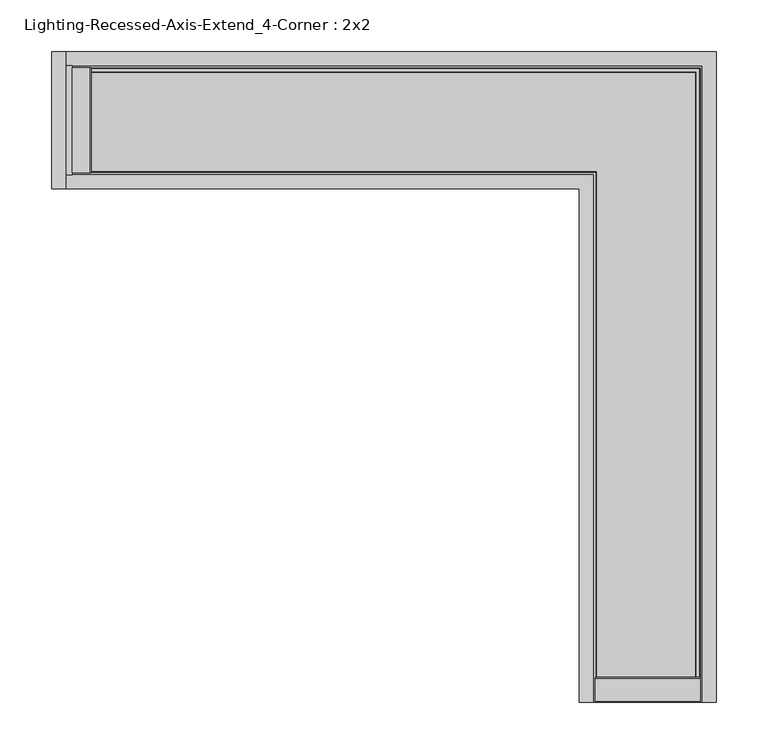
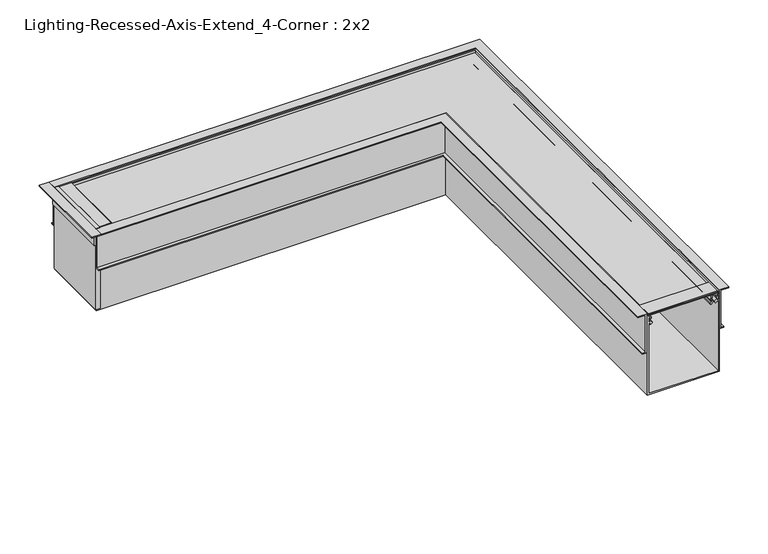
"""IFC4 building model written with IfcOpenShell, lengths in millimetres: light fixture geometry, Lighting-Recessed-Axis-Extend_4-Corner : 2x2."""

from ifc_helpers import new_model, si_unit, frame, origin, place, context, project, spatial, polyline, circle_curve, ellipse_curve, outline, extrude, faceted_brep, source, transform, mapped, element, save
from ifc_brep_helpers import plane_surface, cylinder_surface, revolved_surface, advanced_brep


def lighting_recessed_axis_extend_4_corner_2x2_71452913(model_context):
    return source(origin(), model_context, "Body", "SolidModel", [
        faceted_brep([(-563.76189, 52.78501, 0.0), (-563.76189, 52.78501, -23.749), (-566.04789, 52.78501, -23.749), (-566.04789, 52.78501, 0.0), (-566.04789, -52.78501, 0.0), (-566.04789, -52.78501, -23.749), (-563.76189, -52.78501, -23.749), (-563.76189, -52.78501, 0.0), (-563.76189, 66.37401, 0.0), (-563.76189, 66.37401, 1.651), (-563.76189, -66.37401, 1.651), (-563.76189, -66.37401, 0.0), (-577.60489, 66.37401, 0.0), (-577.60489, 66.37401, 1.651), (-577.60489, -66.37401, 1.651), (-577.60489, -66.37401, 0.0)], [[[0, 1, 2, 3]], [[4, 5, 6, 7]], [[1, 0, 8, 9, 10, 11, 7, 6]], [[2, 1, 6, 5]], [[3, 2, 5, 4]], [[8, 12, 13, 9]], [[11, 10, 14, 15]], [[12, 8, 0, 3, 4, 7, 11, 15]], [[13, 12, 15, 14]], [[9, 13, 14, 10]]]),
        extrude(outline(polyline([(0.5492861, -539.09849), (1.651, -540.0230337), (1.651, -557.41189), (-2.9332019, -557.41189), (-2.9332019, -546.74389), (-0.127, -546.74389), (-0.127, -539.89224), (-0.92075, -539.89224), (-0.92075, -539.09849), (0.5492861, -539.09849)])), frame((0.0, -50.75301, 0.0), z_axis=(0.0, 1.0, 0.0), x_axis=(0.0, 0.0, 1.0)), (0.0, 0.0, 1.0), 101.50602),
        extrude(outline(polyline([(-557.41189, 52.78501), (-557.41189, -52.78501), (-563.76189, -52.78501), (-563.76189, 52.78501), (-557.41189, 52.78501)])), frame((0.0, 0.0, -123.1265), z_axis=(0.0, 0.0, 1.0), x_axis=(1.0, 0.0, 0.0)), (0.0, 0.0, 1.0), 124.7775),
        extrude(outline(polyline([(-539.55569, -1.1017139), (-539.55569, -2.57175), (-540.34944, -2.57175), (-540.34944, -1.778), (-546.82009, -1.778), (-546.82009, -4.5842019), (-556.49749, -4.5842019), (-556.49749, -1.778), (-562.96814, -1.778), (-562.96814, -2.57175), (-563.76189, -2.57175), (-563.76189, -1.1017139), (-562.8373463, 0.0), (-540.4802337, 0.0), (-539.55569, -1.1017139)])), frame((-50.75301, 0.0, 0.0), z_axis=(1.0, 0.0, 0.0), x_axis=(0.0, 1.0, 0.0)), (0.0, 0.0, 1.0), 101.50602),
        advanced_brep(
        [(-556.81499, -44.9537362, -4.8895009), (-556.81499, -45.2924281, -11.3521263), (-556.81499, -46.1628914, -17.9580097), (-556.81499, -45.3476056, -19.4557425), (-556.81499, -43.9929166, -20.6551445), (-556.81499, -44.973818, -21.9831631), (-556.81499, -46.5470052, -20.5903092), (-556.81499, -47.8918907, -16.75974), (-556.81499, -46.2564041, -12.7205342), (-556.81499, -46.9204959, -10.8713211), (-556.81499, -46.607002, -4.8895009), (-556.81499, -49.61001, -4.8895009), (-556.81499, -49.61001, -2.9845), (-556.81499, 49.61001, -2.9845), (-556.81499, 49.61001, -4.8895009), (-556.81499, 46.607002, -4.8895009), (-556.81499, 46.9204959, -10.8713211), (-556.81499, 46.2564041, -12.7205342), (-556.81499, 47.8918907, -16.75974), (-556.81499, 46.5470052, -20.5903092), (-556.81499, 44.973818, -21.9831631), (-556.81499, 43.9929166, -20.6551445), (-556.81499, 45.3476056, -19.4557425), (-556.81499, 46.1628914, -17.9580097), (-556.81499, 45.2924281, -11.3521263), (-556.81499, 44.9537362, -4.8895009), (-44.9537362, -556.81499, -4.8895009), (44.9537362, -556.81499, -4.8895009), (45.2924281, -556.81499, -11.3521263), (46.1628914, -556.81499, -17.9580097), (45.3476056, -556.81499, -19.4557425), (43.9929166, -556.81499, -20.6551445), (44.973818, -556.81499, -21.9831631), (46.5470052, -556.81499, -20.5903092), (47.8918907, -556.81499, -16.75974), (46.2564041, -556.81499, -12.7205342), (46.9204959, -556.81499, -10.8713211), (46.607002, -556.81499, -4.8895009), (49.61001, -556.81499, -4.8895009), (49.61001, -556.81499, -2.9845), (-49.61001, -556.81499, -2.9845), (-49.61001, -556.81499, -4.8895009), (-46.607002, -556.81499, -4.8895009), (-46.9204959, -556.81499, -10.8713211), (-46.2564041, -556.81499, -12.7205342), (-47.8918907, -556.81499, -16.75974), (-46.5470052, -556.81499, -20.5903092), (-44.973818, -556.81499, -21.9831631), (-43.9929166, -556.81499, -20.6551445), (-45.3476056, -556.81499, -19.4557425), (-46.1628914, -556.81499, -17.9580097), (-45.2924281, -556.81499, -11.3521263), (-44.9537362, -44.9537362, -4.8895009), (-45.2924281, -45.2924281, -11.3521263), (-46.1628914, -46.1628914, -17.9580097), (-45.3476056, -45.3476056, -19.4557425), (-43.9929166, -43.9929166, -20.6551445), (-44.973818, -44.973818, -21.9831631), (-46.5470052, -46.5470052, -20.5903092), (-47.8918907, -47.8918907, -16.75974), (-46.2564041, -46.2564041, -12.7205342), (-46.9204959, -46.9204959, -10.8713211), (-46.607002, -46.607002, -4.8895009), (-49.61001, -49.61001, -4.8895009), (-49.61001, -49.61001, -2.9845), (49.61001, 49.61001, -2.9845), (44.9537362, 44.9537362, -4.8895009), (49.61001, 49.61001, -4.8895009), (46.607002, 46.607002, -4.8895009), (46.9204959, 46.9204959, -10.8713211), (46.2564041, 46.2564041, -12.7205342), (47.8918907, 47.8918907, -16.75974), (46.5470052, 46.5470052, -20.5903092), (44.973818, 44.973818, -21.9831631), (43.9929166, 43.9929166, -20.6551445), (45.3476056, 45.3476056, -19.4557425), (46.1628914, 46.1628914, -17.9580097), (45.2924281, 45.2924281, -11.3521263)],
        [
            (0, 1),
            (1, 2, circle_curve(frame((-556.81499, -48.03521, -14.351), z_axis=(-1.0, 0.0, 0.0), x_axis=(0.0, 0.6748971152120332, 0.7379118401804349)), 4.064)),
            (2, 3, circle_curve(frame((-556.81499, -42.930354, -17.1691543), z_axis=(1.0, 0.0, 0.0), x_axis=(0.0, -0.9714904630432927, -0.23707863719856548)), 3.3274001)),
            (3, 4, circle_curve(frame((-556.81499, -37.9113277, -12.4214292), z_axis=(1.0, 0.0, 0.0), x_axis=(0.0, -0.7264901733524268, -0.68717685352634)), 10.2362001)),
            (4, 5, circle_curve(frame((-556.81499, -44.4833673, -21.3191538), z_axis=(-1.0, 0.0, 0.0), x_axis=(0.0, 0.5941256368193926, 0.8043722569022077)), 0.8255)),
            (5, 6, circle_curve(frame((-556.81499, -37.9113269, -12.4214283), z_axis=(-1.0, 0.0, 0.0), x_axis=(0.0, -0.594125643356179, -0.8043722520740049)), 11.8872013)),
            (6, 7, circle_curve(frame((-556.81499, -42.930354, -17.1691543), z_axis=(-1.0, 0.0, 0.0), x_axis=(0.0, -0.7264685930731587, -0.6871996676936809)), 4.9784001)),
            (7, 8, circle_curve(frame((-556.81499, -48.03521, -14.351), z_axis=(1.0, 0.0, 0.0), x_axis=(0.0, 0.05939464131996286, -0.9982345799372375)), 2.413)),
            (8, 9, circle_curve(frame((-556.81499, -44.3839769, -11.0042544), z_axis=(-1.0, 0.0, 0.0), x_axis=(0.0, -0.7371760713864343, -0.675700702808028)), 2.54)),
            (9, 10),
            (10, 11),
            (11, 12),
            (12, 13),
            (13, 14),
            (14, 15),
            (15, 16),
            (16, 17, circle_curve(frame((-556.81499, 44.3839769, -11.0042544), z_axis=(-1.0, 0.0, 0.0), x_axis=(0.0, 0.7371760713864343, -0.675700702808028)), 2.54)),
            (17, 18, circle_curve(frame((-556.81499, 48.03521, -14.351), z_axis=(1.0, 0.0, 0.0), x_axis=(0.0, -0.05939464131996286, -0.9982345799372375)), 2.413)),
            (18, 19, circle_curve(frame((-556.81499, 42.930354, -17.1691543), z_axis=(-1.0, 0.0, 0.0), x_axis=(0.0, 0.7264685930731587, -0.6871996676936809)), 4.9784001)),
            (19, 20, circle_curve(frame((-556.81499, 37.9113269, -12.4214283), z_axis=(-1.0, 0.0, 0.0), x_axis=(0.0, 0.594125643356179, -0.8043722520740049)), 11.8872013)),
            (20, 21, circle_curve(frame((-556.81499, 44.4833673, -21.3191538), z_axis=(-1.0, 0.0, 0.0), x_axis=(0.0, -0.5941256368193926, 0.8043722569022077)), 0.8255)),
            (21, 22, circle_curve(frame((-556.81499, 37.9113277, -12.4214292), z_axis=(1.0, 0.0, 0.0), x_axis=(0.0, 0.7264901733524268, -0.68717685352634)), 10.2362001)),
            (22, 23, circle_curve(frame((-556.81499, 42.930354, -17.1691543), z_axis=(1.0, 0.0, 0.0), x_axis=(0.0, 0.9714904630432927, -0.23707863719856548)), 3.3274001)),
            (23, 24, circle_curve(frame((-556.81499, 48.03521, -14.351), z_axis=(-1.0, 0.0, 0.0), x_axis=(0.0, -0.6748971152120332, 0.7379118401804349)), 4.064)),
            (24, 25),
            (25, 0),
            (26, 27),
            (27, 28),
            (28, 29, circle_curve(frame((48.03521, -556.81499, -14.351), z_axis=(0.0, -1.0, 0.0), x_axis=(-0.6748971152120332, 0.0, 0.7379118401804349)), 4.064)),
            (29, 30, circle_curve(frame((42.930354, -556.81499, -17.1691543), z_axis=(0.0, 1.0, 0.0), x_axis=(0.9714904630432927, 0.0, -0.23707863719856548)), 3.3274001)),
            (30, 31, circle_curve(frame((37.9113277, -556.81499, -12.4214292), z_axis=(0.0, 1.0, 0.0), x_axis=(0.7264901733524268, 0.0, -0.68717685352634)), 10.2362001)),
            (31, 32, circle_curve(frame((44.4833673, -556.81499, -21.3191538), z_axis=(0.0, -1.0, 0.0), x_axis=(-0.5941256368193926, 0.0, 0.8043722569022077)), 0.8255)),
            (32, 33, circle_curve(frame((37.9113269, -556.81499, -12.4214283), z_axis=(0.0, -1.0, 0.0), x_axis=(0.594125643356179, 0.0, -0.8043722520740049)), 11.8872013)),
            (33, 34, circle_curve(frame((42.930354, -556.81499, -17.1691543), z_axis=(0.0, -1.0, 0.0), x_axis=(0.7264685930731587, 0.0, -0.6871996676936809)), 4.9784001)),
            (34, 35, circle_curve(frame((48.03521, -556.81499, -14.351), z_axis=(0.0, 1.0, 0.0), x_axis=(-0.05939464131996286, 0.0, -0.9982345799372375)), 2.413)),
            (35, 36, circle_curve(frame((44.3839769, -556.81499, -11.0042544), z_axis=(0.0, -1.0, 0.0), x_axis=(0.7371760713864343, 0.0, -0.675700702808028)), 2.54)),
            (36, 37),
            (37, 38),
            (38, 39),
            (39, 40),
            (40, 41),
            (41, 42),
            (42, 43),
            (43, 44, circle_curve(frame((-44.3839769, -556.81499, -11.0042544), z_axis=(0.0, -1.0, 0.0), x_axis=(-0.7371760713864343, 0.0, -0.675700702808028)), 2.54)),
            (44, 45, circle_curve(frame((-48.03521, -556.81499, -14.351), z_axis=(0.0, 1.0, 0.0), x_axis=(0.05939464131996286, 0.0, -0.9982345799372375)), 2.413)),
            (45, 46, circle_curve(frame((-42.930354, -556.81499, -17.1691543), z_axis=(0.0, -1.0, 0.0), x_axis=(-0.7264685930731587, 0.0, -0.6871996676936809)), 4.9784001)),
            (46, 47, circle_curve(frame((-37.9113269, -556.81499, -12.4214283), z_axis=(0.0, -1.0, 0.0), x_axis=(-0.594125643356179, 0.0, -0.8043722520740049)), 11.8872013)),
            (47, 48, circle_curve(frame((-44.4833673, -556.81499, -21.3191538), z_axis=(0.0, -1.0, 0.0), x_axis=(0.5941256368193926, 0.0, 0.8043722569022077)), 0.8255)),
            (48, 49, circle_curve(frame((-37.9113277, -556.81499, -12.4214292), z_axis=(0.0, 1.0, 0.0), x_axis=(-0.7264901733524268, 0.0, -0.68717685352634)), 10.2362001)),
            (49, 50, circle_curve(frame((-42.930354, -556.81499, -17.1691543), z_axis=(0.0, 1.0, 0.0), x_axis=(-0.9714904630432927, 0.0, -0.23707863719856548)), 3.3274001)),
            (50, 51, circle_curve(frame((-48.03521, -556.81499, -14.351), z_axis=(0.0, -1.0, 0.0), x_axis=(0.6748971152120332, 0.0, 0.7379118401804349)), 4.064)),
            (51, 26),
            (0, 52),
            (52, 53),
            (53, 1),
            (53, 54, ellipse_curve(frame((-48.03521, -48.03521, -14.351), z_axis=(-0.7071067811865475, 0.7071067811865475, 0.0), x_axis=(-0.7071067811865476, -0.7071067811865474, 0.0)), 5.7473639, 4.064)),
            (54, 2),
            (54, 55, ellipse_curve(frame((-42.930354, -42.930354, -17.1691543), z_axis=(0.7071067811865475, -0.7071067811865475, 0.0), x_axis=(0.7071067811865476, 0.7071067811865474, 0.0)), 4.7056543, 3.3274001)),
            (55, 3),
            (55, 56, ellipse_curve(frame((-37.9113277, -37.9113277, -12.4214292), z_axis=(0.7071067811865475, -0.7071067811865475, 0.0), x_axis=(0.7071067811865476, 0.7071067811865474, 0.0)), 14.476173, 10.2362001)),
            (56, 4),
            (56, 57, ellipse_curve(frame((-44.4833673, -44.4833673, -21.3191538), z_axis=(-0.7071067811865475, 0.7071067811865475, 0.0), x_axis=(-0.7071067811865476, -0.7071067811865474, 0.0)), 1.1674333, 0.8255)),
            (57, 5),
            (57, 58, ellipse_curve(frame((-37.9113269, -37.9113269, -12.4214283), z_axis=(-0.7071067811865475, 0.7071067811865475, 0.0), x_axis=(-0.7071067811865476, -0.7071067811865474, 0.0)), 16.8110412, 11.8872013)),
            (58, 6),
            (58, 59, ellipse_curve(frame((-42.930354, -42.930354, -17.1691543), z_axis=(-0.7071067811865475, 0.7071067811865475, 0.0), x_axis=(-0.7071067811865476, -0.7071067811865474, 0.0)), 7.0405209, 4.9784001)),
            (59, 7),
            (59, 60, ellipse_curve(frame((-48.03521, -48.03521, -14.351), z_axis=(0.7071067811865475, -0.7071067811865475, 0.0), x_axis=(0.7071067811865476, 0.7071067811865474, 0.0)), 3.4124973, 2.413)),
            (60, 8),
            (60, 61, ellipse_curve(frame((-44.3839769, -44.3839769, -11.0042544), z_axis=(-0.7071067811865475, 0.7071067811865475, 0.0), x_axis=(-0.7071067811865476, -0.7071067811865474, 0.0)), 3.5921024, 2.54)),
            (61, 9),
            (61, 62),
            (62, 10),
            (62, 42),
            (41, 63),
            (63, 11),
            (63, 64),
            (64, 12),
            (64, 40),
            (39, 65),
            (65, 13),
            (25, 66),
            (66, 27),
            (26, 52),
            (65, 67),
            (67, 14),
            (67, 38),
            (37, 68),
            (68, 15),
            (68, 69),
            (69, 16),
            (69, 70, ellipse_curve(frame((44.3839769, 44.3839769, -11.0042544), z_axis=(-0.7071067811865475, 0.7071067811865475, 0.0), x_axis=(-0.7071067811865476, -0.7071067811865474, 0.0)), 3.5921024, 2.54)),
            (70, 17),
            (70, 71, ellipse_curve(frame((48.03521, 48.03521, -14.351), z_axis=(0.7071067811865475, -0.7071067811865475, 0.0), x_axis=(0.7071067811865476, 0.7071067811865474, 0.0)), 3.4124973, 2.413)),
            (71, 18),
            (71, 72, ellipse_curve(frame((42.930354, 42.930354, -17.1691543), z_axis=(-0.7071067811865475, 0.7071067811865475, 0.0), x_axis=(-0.7071067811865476, -0.7071067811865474, 0.0)), 7.0405209, 4.9784001)),
            (72, 19),
            (72, 73, ellipse_curve(frame((37.9113269, 37.9113269, -12.4214283), z_axis=(-0.7071067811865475, 0.7071067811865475, 0.0), x_axis=(-0.7071067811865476, -0.7071067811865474, 0.0)), 16.8110412, 11.8872013)),
            (73, 20),
            (73, 74, ellipse_curve(frame((44.4833673, 44.4833673, -21.3191538), z_axis=(-0.7071067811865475, 0.7071067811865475, 0.0), x_axis=(-0.7071067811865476, -0.7071067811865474, 0.0)), 1.1674333, 0.8255)),
            (74, 21),
            (74, 75, ellipse_curve(frame((37.9113277, 37.9113277, -12.4214292), z_axis=(0.7071067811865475, -0.7071067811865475, 0.0), x_axis=(0.7071067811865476, 0.7071067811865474, 0.0)), 14.476173, 10.2362001)),
            (75, 22),
            (75, 76, ellipse_curve(frame((42.930354, 42.930354, -17.1691543), z_axis=(0.7071067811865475, -0.7071067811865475, 0.0), x_axis=(0.7071067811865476, 0.7071067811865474, 0.0)), 4.7056543, 3.3274001)),
            (76, 23),
            (76, 77, ellipse_curve(frame((48.03521, 48.03521, -14.351), z_axis=(-0.7071067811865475, 0.7071067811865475, 0.0), x_axis=(-0.7071067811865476, -0.7071067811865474, 0.0)), 5.7473639, 4.064)),
            (77, 24),
            (77, 66),
            (51, 53),
            (50, 54),
            (49, 55),
            (48, 56),
            (47, 57),
            (46, 58),
            (45, 59),
            (44, 60),
            (43, 61),
            (36, 69),
            (35, 70),
            (34, 71),
            (33, 72),
            (32, 73),
            (31, 74),
            (30, 75),
            (29, 76),
            (28, 77),
        ],
        [
            plane_surface(frame((-556.81499, 0.0, -124.7775), z_axis=(-1.0, 0.0, 0.0), x_axis=(0.0, 0.0, 1.0))),
            plane_surface(frame((0.0, -556.81499, -124.7775), z_axis=(0.0, -1.0, 0.0), x_axis=(0.0, 0.0, 1.0))),
            plane_surface(frame((-556.81499, -44.9537362, -4.8895009), z_axis=(0.0, 0.9986295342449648, -0.05233596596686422), x_axis=(1.0, 0.0, 0.0))),
            cylinder_surface(frame((-556.81499, -48.03521, -14.351), z_axis=(-1.0, 0.0, 0.0), x_axis=(0.0, 0.6748971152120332, 0.7379118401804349)), 4.064),
            revolved_surface(polyline([(-39.6029539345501, -46.1628914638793, -17.95800978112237), (-556.81499, -46.1628914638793, -17.95800978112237)]), (-556.81499, -42.930354, -17.1691543), (1.0000000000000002, 0.0, 0.0)),
            revolved_surface(polyline([(-27.67512760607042, -45.34782648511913, -19.455508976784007), (-556.81499, -45.34782648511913, -19.455508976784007)]), (-556.81499, -37.9113277, -12.4214292), (1.0, 0.0, 0.0)),
            cylinder_surface(frame((-556.81499, -44.4833673, -21.3191538), z_axis=(-1.0, 0.0, 0.0), x_axis=(0.0, 0.5941256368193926, 0.8043722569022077)), 0.8255),
            cylinder_surface(frame((-556.81499, -37.9113269, -12.4214283), z_axis=(-1.0, 0.0, 0.0), x_axis=(0.0, -0.594125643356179, -0.8043722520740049)), 11.8872013),
            cylinder_surface(frame((-556.81499, -42.930354, -17.1691543), z_axis=(-1.0, 0.0, 0.0), x_axis=(0.0, -0.7264685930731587, -0.6871996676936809)), 4.9784001),
            revolved_surface(polyline([(-45.62221001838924, -47.89189073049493, -16.759740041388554), (-556.81499, -47.89189073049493, -16.759740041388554)]), (-556.81499, -48.03521, -14.351), (1.0, 0.0, 0.0)),
            cylinder_surface(frame((-556.81499, -44.3839769, -11.0042544), z_axis=(-1.0, 0.0, 0.0), x_axis=(0.0, -0.7371760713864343, -0.675700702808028)), 2.54),
            plane_surface(frame((-556.81499, -46.9204959, -10.8713211), z_axis=(0.0, -0.9986295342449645, 0.05233596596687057), x_axis=(1.0, 0.0, 0.0))),
            plane_surface(frame((-556.81499, -46.607002, -4.8895009), z_axis=(0.0, 0.0, -1.0), x_axis=(1.0, 0.0, 0.0))),
            plane_surface(frame((-556.81499, -49.61001, -4.8895009), z_axis=(0.0, -1.0, 0.0), x_axis=(1.0, 0.0, 0.0))),
            plane_surface(frame((-556.81499, -49.61001, -2.9845), z_axis=(0.0, 0.0, 1.0), x_axis=(1.0, 0.0, 0.0))),
            plane_surface(frame((-556.81499, 44.9537362, -4.8895009), z_axis=(0.0, 0.0, -1.0), x_axis=(1.0, 0.0, 0.0))),
            plane_surface(frame((-556.81499, 49.61001, -2.9845), z_axis=(0.0, 1.0, 0.0), x_axis=(1.0, 0.0, 0.0))),
            plane_surface(frame((-556.81499, 49.61001, -4.8895009), z_axis=(0.0, 0.0, -1.0), x_axis=(1.0, 0.0, 0.0))),
            plane_surface(frame((-556.81499, 46.607002, -4.8895009), z_axis=(0.0, 0.9986295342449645, 0.05233596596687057), x_axis=(1.0, 0.0, 0.0))),
            cylinder_surface(frame((-556.81499, 44.3839769, -11.0042544), z_axis=(-1.0, 0.0, 0.0), x_axis=(0.0, 0.7371760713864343, -0.675700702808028)), 2.54),
            revolved_surface(polyline([(50.44820998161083, 47.89189073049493, -16.759740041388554), (-556.81499, 47.89189073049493, -16.759740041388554)]), (-556.81499, 48.03521, -14.351), (1.0, 0.0, 0.0)),
            cylinder_surface(frame((-556.81499, 42.930354, -17.1691543), z_axis=(-1.0, 0.0, 0.0), x_axis=(0.0, 0.7264685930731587, -0.6871996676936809)), 4.9784001),
            cylinder_surface(frame((-556.81499, 37.9113269, -12.4214283), z_axis=(-1.0, 0.0, 0.0), x_axis=(0.0, 0.594125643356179, -0.8043722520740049)), 11.8872013),
            cylinder_surface(frame((-556.81499, 44.4833673, -21.3191538), z_axis=(-1.0, 0.0, 0.0), x_axis=(0.0, -0.5941256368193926, 0.8043722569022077)), 0.8255),
            revolved_surface(polyline([(48.14752779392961, 45.34782648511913, -19.455508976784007), (-556.81499, 45.34782648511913, -19.455508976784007)]), (-556.81499, 37.9113277, -12.4214292), (1.0, 0.0, 0.0)),
            revolved_surface(polyline([(46.25775406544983, 46.1628914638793, -17.95800978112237), (-556.81499, 46.1628914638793, -17.95800978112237)]), (-556.81499, 42.930354, -17.1691543), (1.0000000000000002, 0.0, 0.0)),
            cylinder_surface(frame((-556.81499, 48.03521, -14.351), z_axis=(-1.0, 0.0, 0.0), x_axis=(0.0, -0.6748971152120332, 0.7379118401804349)), 4.064),
            plane_surface(frame((-556.81499, 45.2924281, -11.3521263), z_axis=(0.0, -0.9986295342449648, -0.05233596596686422), x_axis=(1.0, 0.0, 0.0))),
            plane_surface(frame((-44.9537362, -44.9537362, -4.8895009), z_axis=(0.9986295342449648, 0.0, -0.05233596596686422), x_axis=(0.0, -1.0, 0.0))),
            cylinder_surface(frame((-48.03521, 0.0, -14.351), z_axis=(0.0, 1.0, 0.0), x_axis=(0.6748971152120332, 0.0, 0.7379118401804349)), 4.064),
            revolved_surface(polyline([(-46.1628914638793, -556.8149900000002, -17.95800978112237), (-46.1628914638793, -39.60295393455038, -17.95800978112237)]), (-42.930354, 0.0, -17.1691543), (0.0, -1.0000000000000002, 0.0)),
            revolved_surface(polyline([(-45.34782648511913, -556.81499, -19.455508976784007), (-45.34782648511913, -27.675127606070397, -19.455508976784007)]), (-37.9113277, 0.0, -12.4214292), (0.0, -1.0, 0.0)),
            cylinder_surface(frame((-44.4833673, 0.0, -21.3191538), z_axis=(0.0, 1.0, 0.0), x_axis=(0.5941256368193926, 0.0, 0.8043722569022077)), 0.8255),
            cylinder_surface(frame((-37.9113269, 0.0, -12.4214283), z_axis=(0.0, 1.0, 0.0), x_axis=(-0.594125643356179, 0.0, -0.8043722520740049)), 11.8872013),
            cylinder_surface(frame((-42.930354, 0.0, -17.1691543), z_axis=(0.0, 1.0, 0.0), x_axis=(-0.7264685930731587, 0.0, -0.6871996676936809)), 4.9784001),
            revolved_surface(polyline([(-47.89189073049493, -556.81499, -16.759740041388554), (-47.89189073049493, -45.62221001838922, -16.759740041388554)]), (-48.03521, 0.0, -14.351), (0.0, -1.0, 0.0)),
            cylinder_surface(frame((-44.3839769, 0.0, -11.0042544), z_axis=(0.0, 1.0, 0.0), x_axis=(-0.7371760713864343, 0.0, -0.675700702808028)), 2.54),
            plane_surface(frame((-46.9204959, -46.9204959, -10.8713211), z_axis=(-0.9986295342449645, 0.0, 0.05233596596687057), x_axis=(0.0, -1.0, 0.0))),
            plane_surface(frame((-49.61001, -49.61001, -4.8895009), z_axis=(-1.0, 0.0, 0.0), x_axis=(0.0, -1.0, 0.0))),
            plane_surface(frame((49.61001, 49.61001, -2.9845), z_axis=(1.0, 0.0, 0.0), x_axis=(0.0, -1.0, 0.0))),
            plane_surface(frame((46.607002, 46.607002, -4.8895009), z_axis=(0.9986295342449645, 0.0, 0.05233596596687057), x_axis=(0.0, -1.0, 0.0))),
            cylinder_surface(frame((44.3839769, 0.0, -11.0042544), z_axis=(0.0, 1.0, 0.0), x_axis=(0.7371760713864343, 0.0, -0.675700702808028)), 2.54),
            revolved_surface(polyline([(47.89189073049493, -556.81499, -16.759740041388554), (47.89189073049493, 50.44820998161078, -16.759740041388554)]), (48.03521, 0.0, -14.351), (0.0, -1.0, 0.0)),
            cylinder_surface(frame((42.930354, 0.0, -17.1691543), z_axis=(0.0, 1.0, 0.0), x_axis=(0.7264685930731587, 0.0, -0.6871996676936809)), 4.9784001),
            cylinder_surface(frame((37.9113269, 0.0, -12.4214283), z_axis=(0.0, 1.0, 0.0), x_axis=(0.594125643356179, 0.0, -0.8043722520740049)), 11.8872013),
            cylinder_surface(frame((44.4833673, 0.0, -21.3191538), z_axis=(0.0, 1.0, 0.0), x_axis=(-0.5941256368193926, 0.0, 0.8043722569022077)), 0.8255),
            revolved_surface(polyline([(45.34782648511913, -556.81499, -19.455508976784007), (45.34782648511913, 48.147527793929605, -19.455508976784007)]), (37.9113277, 0.0, -12.4214292), (0.0, -1.0, 0.0)),
            revolved_surface(polyline([(46.1628914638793, -556.8149900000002, -17.95800978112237), (46.1628914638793, 46.25775406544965, -17.95800978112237)]), (42.930354, 0.0, -17.1691543), (0.0, -1.0000000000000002, 0.0)),
            cylinder_surface(frame((48.03521, 0.0, -14.351), z_axis=(0.0, 1.0, 0.0), x_axis=(-0.6748971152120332, 0.0, 0.7379118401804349)), 4.064),
            plane_surface(frame((45.2924281, 45.2924281, -11.3521263), z_axis=(-0.9986295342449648, 0.0, -0.05233596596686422), x_axis=(0.0, -1.0, 0.0))),
        ],
        [
            (0, [[1, 2, 3, 4, 5, 6, 7, 8, 9, 10, 11, 12, 13, 14, 15, 16, 17, 18, 19, 20, 21, 22, 23, 24, 25, 26]]),
            (1, [[27, 28, 29, 30, 31, 32, 33, 34, 35, 36, 37, 38, 39, 40, 41, 42, 43, 44, 45, 46, 47, 48, 49, 50, 51, 52]]),
            (2, [[-1, 53, 54, 55]]),
            (3, [[-2, -55, 56, 57]]),
            (4, [[-3, -57, 58, 59]]),
            (5, [[-4, -59, 60, 61]]),
            (6, [[-5, -61, 62, 63]]),
            (7, [[-6, -63, 64, 65]]),
            (8, [[-7, -65, 66, 67]]),
            (9, [[-8, -67, 68, 69]]),
            (10, [[-9, -69, 70, 71]]),
            (11, [[-10, -71, 72, 73]]),
            (12, [[-11, -73, 74, -42, 75, 76]]),
            (13, [[-12, -76, 77, 78]]),
            (14, [[-13, -78, 79, -40, 80, 81]]),
            (15, [[-26, 82, 83, -27, 84, -53]]),
            (16, [[-14, -81, 85, 86]]),
            (17, [[-15, -86, 87, -38, 88, 89]]),
            (18, [[-16, -89, 90, 91]]),
            (19, [[-17, -91, 92, 93]]),
            (20, [[-18, -93, 94, 95]]),
            (21, [[-19, -95, 96, 97]]),
            (22, [[-20, -97, 98, 99]]),
            (23, [[-21, -99, 100, 101]]),
            (24, [[-22, -101, 102, 103]]),
            (25, [[-23, -103, 104, 105]]),
            (26, [[-24, -105, 106, 107]]),
            (27, [[-25, -107, 108, -82]]),
            (28, [[-54, -84, -52, 109]]),
            (29, [[-56, -109, -51, 110]]),
            (30, [[-58, -110, -50, 111]]),
            (31, [[-60, -111, -49, 112]]),
            (32, [[-62, -112, -48, 113]]),
            (33, [[-64, -113, -47, 114]]),
            (34, [[-66, -114, -46, 115]]),
            (35, [[-68, -115, -45, 116]]),
            (36, [[-70, -116, -44, 117]]),
            (37, [[-72, -117, -43, -74]]),
            (38, [[-77, -75, -41, -79]]),
            (39, [[-85, -80, -39, -87]]),
            (40, [[-90, -88, -37, 118]]),
            (41, [[-92, -118, -36, 119]]),
            (42, [[-94, -119, -35, 120]]),
            (43, [[-96, -120, -34, 121]]),
            (44, [[-98, -121, -33, 122]]),
            (45, [[-100, -122, -32, 123]]),
            (46, [[-102, -123, -31, 124]]),
            (47, [[-104, -124, -30, 125]]),
            (48, [[-106, -125, -29, 126]]),
            (49, [[-108, -126, -28, -83]]),
        ],
    ),
        advanced_brep(
        [(-563.4262619, -50.75301, -14.9098), (-563.4262619, -50.75301, -122.7455), (-563.4262619, 50.75301, -122.7455), (-563.4262619, 50.75301, -14.9098), (-563.4262619, 48.9135897, -14.9098), (-563.4262619, 46.6540646, -16.2143374), (-563.4262619, 45.4706616, -13.9591318), (-563.4262619, 48.84801, -11.1252), (-563.4262619, 48.84801, -12.8778), (-563.4262619, 50.75301, -12.8778), (-563.4262619, 50.75301, -6.35), (-563.4262619, 48.84801, -6.35), (-563.4262619, 48.84801, -7.874), (-563.4262619, 47.19701, -7.7874748), (-563.4262619, 47.19701, -5.08), (-563.4262619, 50.75301, -5.08), (-563.4262619, 50.75301, 0.0), (-563.4262619, 52.78501, 0.0), (-563.4262619, 52.78501, -124.7775), (-563.4262619, -52.78501, -124.7775), (-563.4262619, -52.78501, 0.0), (-563.4262619, -50.75301, 0.0), (-563.4262619, -50.75301, -5.08), (-563.4262619, -47.19701, -5.08), (-563.4262619, -47.19701, -7.7874748), (-563.4262619, -48.84801, -7.874), (-563.4262619, -48.84801, -6.35), (-563.4262619, -50.75301, -6.35), (-563.4262619, -50.75301, -12.8778), (-563.4262619, -48.84801, -12.8778), (-563.4262619, -48.84801, -11.1252), (-563.4262619, -45.4706616, -13.9591318), (-563.4262619, -46.6540646, -16.2143374), (-563.4262619, -48.9135897, -14.9098), (-50.4173819, -563.76189, -14.9098), (-48.5779616, -563.76189, -14.9098), (-46.3184365, -563.76189, -16.2143374), (-45.1350335, -563.76189, -13.9591318), (-48.5123819, -563.76189, -11.1252), (-48.5123819, -563.76189, -12.8778), (-50.4173819, -563.76189, -12.8778), (-50.4173819, -563.76189, -6.35), (-48.5123819, -563.76189, -6.35), (-48.5123819, -563.76189, -7.874), (-46.8613819, -563.76189, -7.7874748), (-46.8613819, -563.76189, -5.08), (-50.4173819, -563.76189, -5.08), (-50.4173819, -563.76189, 0.0), (-52.4493819, -563.76189, 0.0), (-52.4493819, -563.76189, -124.7775), (53.1206381, -563.76189, -124.7775), (53.1206381, -563.76189, 0.0), (51.0886381, -563.76189, 0.0), (51.0886381, -563.76189, -5.08), (47.5326381, -563.76189, -5.08), (47.5326381, -563.76189, -7.7874748), (49.1836381, -563.76189, -7.874), (49.1836381, -563.76189, -6.35), (51.0886381, -563.76189, -6.35), (51.0886381, -563.76189, -12.8778), (49.1836381, -563.76189, -12.8778), (49.1836381, -563.76189, -11.1252), (45.8062898, -563.76189, -13.9591318), (46.9896928, -563.76189, -16.2143374), (49.2492179, -563.76189, -14.9098), (51.0886381, -563.76189, -14.9098), (51.0886381, -563.76189, -122.7455), (-50.4173819, -563.76189, -122.7455), (-50.4173819, -50.75301, -14.9098), (-50.4173819, -50.75301, -122.7455), (51.0886381, 50.75301, -122.7455), (53.1206381, 52.78501, -124.7775), (-52.4493819, -52.78501, -124.7775), (-52.4493819, -52.78501, 0.0), (-50.4173819, -50.75301, 0.0), (-50.4173819, -50.75301, -5.08), (-46.8613819, -47.19701, -5.08), (-46.8613819, -47.19701, -7.7874748), (-48.5123819, -48.84801, -7.874), (-48.5123819, -48.84801, -6.35), (-50.4173819, -50.75301, -6.35), (-50.4173819, -50.75301, -12.8778), (-48.5123819, -48.84801, -12.8778), (-48.5123819, -48.84801, -11.1252), (-45.1350335, -45.4706616, -13.9591318), (-46.3184365, -46.6540646, -16.2143374), (-48.5779616, -48.9135897, -14.9098), (51.0886381, 50.75301, -14.9098), (49.2492179, 48.9135897, -14.9098), (46.9896928, 46.6540646, -16.2143374), (45.8062898, 45.4706616, -13.9591318), (49.1836381, 48.84801, -11.1252), (49.1836381, 48.84801, -12.8778), (51.0886381, 50.75301, -12.8778), (51.0886381, 50.75301, -6.35), (49.1836381, 48.84801, -6.35), (49.1836381, 48.84801, -7.874), (47.5326381, 47.19701, -7.7874748), (47.5326381, 47.19701, -5.08), (51.0886381, 50.75301, -5.08), (51.0886381, 50.75301, 0.0), (53.1206381, 52.78501, 0.0)],
        [
            (0, 1),
            (1, 2),
            (2, 3),
            (3, 4),
            (4, 5, circle_curve(frame((-563.4262619, 47.4072397, -14.9098), z_axis=(-1.0, 0.0, 0.0), x_axis=(0.0, 1.0, 0.0)), 1.5063501)),
            (5, 6, circle_curve(frame((-563.4262619, 47.8452221, -14.1511921), z_axis=(-1.0, 0.0, 0.0), x_axis=(0.0, -0.5000000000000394, -0.866025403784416)), 2.382315)),
            (6, 7),
            (7, 8),
            (8, 9),
            (9, 10),
            (10, 11),
            (11, 12),
            (12, 13),
            (13, 14),
            (14, 15),
            (15, 16),
            (16, 17),
            (17, 18),
            (18, 19),
            (19, 20),
            (20, 21),
            (21, 22),
            (22, 23),
            (23, 24),
            (24, 25),
            (25, 26),
            (26, 27),
            (27, 28),
            (28, 29),
            (29, 30),
            (30, 31),
            (31, 32, circle_curve(frame((-563.4262619, -47.8452221, -14.1511921), z_axis=(-1.0, 0.0, 0.0), x_axis=(0.0, 0.5000000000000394, -0.866025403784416)), 2.382315)),
            (32, 33, circle_curve(frame((-563.4262619, -47.4072397, -14.9098), z_axis=(-1.0, 0.0, 0.0), x_axis=(0.0, -1.0, 0.0)), 1.5063501)),
            (33, 0),
            (34, 35),
            (35, 36, circle_curve(frame((-47.0716115, -563.76189, -14.9098), z_axis=(0.0, -1.0, 0.0), x_axis=(-1.0, 0.0, 0.0)), 1.5063501)),
            (36, 37, circle_curve(frame((-47.509594, -563.76189, -14.1511921), z_axis=(0.0, -1.0, 0.0), x_axis=(0.5000000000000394, 0.0, -0.866025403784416)), 2.382315)),
            (37, 38),
            (38, 39),
            (39, 40),
            (40, 41),
            (41, 42),
            (42, 43),
            (43, 44),
            (44, 45),
            (45, 46),
            (46, 47),
            (47, 48),
            (48, 49),
            (49, 50),
            (50, 51),
            (51, 52),
            (52, 53),
            (53, 54),
            (54, 55),
            (55, 56),
            (56, 57),
            (57, 58),
            (58, 59),
            (59, 60),
            (60, 61),
            (61, 62),
            (62, 63, circle_curve(frame((48.1808503, -563.76189, -14.1511921), z_axis=(0.0, -1.0, 0.0), x_axis=(-0.5000000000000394, 0.0, -0.866025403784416)), 2.382315)),
            (63, 64, circle_curve(frame((47.7428678, -563.76189, -14.9098), z_axis=(0.0, -1.0, 0.0), x_axis=(1.0, 0.0, 0.0)), 1.5063501)),
            (64, 65),
            (65, 66),
            (66, 67),
            (67, 34),
            (0, 68),
            (68, 69),
            (69, 1),
            (69, 67),
            (66, 70),
            (70, 2),
            (18, 71),
            (71, 50),
            (49, 72),
            (72, 19),
            (72, 73),
            (73, 20),
            (73, 48),
            (47, 74),
            (74, 21),
            (74, 75),
            (75, 22),
            (75, 46),
            (45, 76),
            (76, 23),
            (76, 77),
            (77, 24),
            (77, 78),
            (78, 25),
            (78, 79),
            (79, 26),
            (79, 42),
            (41, 80),
            (80, 27),
            (80, 81),
            (81, 28),
            (81, 40),
            (39, 82),
            (82, 29),
            (82, 83),
            (83, 30),
            (83, 84),
            (84, 31),
            (84, 85, ellipse_curve(frame((-47.509594, -47.8452221, -14.1511921), z_axis=(-0.7071067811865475, 0.7071067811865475, 0.0), x_axis=(-0.7071067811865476, -0.7071067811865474, 0.0)), 3.3691022, 2.382315)),
            (85, 32),
            (85, 86, ellipse_curve(frame((-47.0716115, -47.4072397, -14.9098), z_axis=(-0.7071067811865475, 0.7071067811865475, 0.0), x_axis=(-0.7071067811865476, -0.7071067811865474, 0.0)), 2.1303007, 1.5063501)),
            (86, 33),
            (86, 35),
            (34, 68),
            (70, 87),
            (87, 3),
            (87, 65),
            (64, 88),
            (88, 4),
            (88, 89, ellipse_curve(frame((47.7428678, 47.4072397, -14.9098), z_axis=(-0.7071067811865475, 0.7071067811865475, 0.0), x_axis=(-0.7071067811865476, -0.7071067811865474, 0.0)), 2.1303007, 1.5063501)),
            (89, 5),
            (89, 90, ellipse_curve(frame((48.1808503, 47.8452221, -14.1511921), z_axis=(-0.7071067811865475, 0.7071067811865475, 0.0), x_axis=(-0.7071067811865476, -0.7071067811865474, 0.0)), 3.3691022, 2.382315)),
            (90, 6),
            (90, 91),
            (91, 7),
            (91, 92),
            (92, 8),
            (92, 60),
            (59, 93),
            (93, 9),
            (93, 94),
            (94, 10),
            (94, 58),
            (57, 95),
            (95, 11),
            (95, 96),
            (96, 12),
            (96, 97),
            (97, 13),
            (97, 98),
            (98, 14),
            (98, 54),
            (53, 99),
            (99, 15),
            (99, 100),
            (100, 16),
            (100, 52),
            (51, 101),
            (101, 17),
            (101, 71),
            (63, 89),
            (62, 90),
            (61, 91),
            (56, 96),
            (55, 97),
            (44, 77),
            (43, 78),
            (38, 83),
            (37, 84),
            (36, 85),
        ],
        [
            plane_surface(frame((-563.4262619, 0.0, -124.7775), z_axis=(-1.0, 0.0, 0.0), x_axis=(0.0, 0.0, 1.0))),
            plane_surface(frame((0.3356281, -563.76189, -124.7775), z_axis=(0.0, -1.0, 0.0), x_axis=(0.0, 0.0, 1.0))),
            plane_surface(frame((-563.4262619, -50.75301, -14.9098), z_axis=(0.0, 1.0, 0.0), x_axis=(1.0, 0.0, 0.0))),
            plane_surface(frame((-563.4262619, -50.75301, -122.7455), z_axis=(0.0, 0.0, 1.0), x_axis=(1.0, 0.0, 0.0))),
            plane_surface(frame((-563.4262619, 52.78501, -124.7775), z_axis=(0.0, 0.0, -1.0), x_axis=(1.0, 0.0, 0.0))),
            plane_surface(frame((-563.4262619, -52.78501, -124.7775), z_axis=(0.0, -1.0, 0.0), x_axis=(1.0, 0.0, 0.0))),
            plane_surface(frame((-563.4262619, -52.78501, 0.0), z_axis=(0.0, 0.0, 1.0), x_axis=(1.0, 0.0, 0.0))),
            plane_surface(frame((-563.4262619, -50.75301, 0.0), z_axis=(0.0, 1.0, 0.0), x_axis=(1.0, 0.0, 0.0))),
            plane_surface(frame((-563.4262619, -50.75301, -5.08), z_axis=(0.0, 0.0, 1.0), x_axis=(1.0, 0.0, 0.0))),
            plane_surface(frame((-563.4262619, -47.19701, -5.08), z_axis=(0.0, 1.0, 0.0), x_axis=(1.0, 0.0, 0.0))),
            plane_surface(frame((-563.4262619, -47.19701, -7.7874748), z_axis=(0.0, 0.052335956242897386, -0.9986295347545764), x_axis=(1.0, 0.0, 0.0))),
            plane_surface(frame((-563.4262619, -48.84801, -7.874), z_axis=(0.0, -1.0, 0.0), x_axis=(1.0, 0.0, 0.0))),
            plane_surface(frame((-563.4262619, -48.84801, -6.35), z_axis=(0.0, 0.0, -1.0), x_axis=(1.0, 0.0, 0.0))),
            plane_surface(frame((-563.4262619, -50.75301, -6.35), z_axis=(0.0, 1.0, 0.0), x_axis=(1.0, 0.0, 0.0))),
            plane_surface(frame((-563.4262619, -50.75301, -12.8778), z_axis=(0.0, 0.0, 1.0), x_axis=(1.0, 0.0, 0.0))),
            plane_surface(frame((-563.4262619, -48.84801, -12.8778), z_axis=(0.0, -1.0, 0.0), x_axis=(1.0, 0.0, 0.0))),
            plane_surface(frame((-563.4262619, -48.84801, -11.1252), z_axis=(0.0, 0.6427876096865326, 0.7660444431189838), x_axis=(1.0, 0.0, 0.0))),
            cylinder_surface(frame((-563.4262619, -47.8452221, -14.1511921), z_axis=(-1.0, 0.0, 0.0), x_axis=(0.0, 0.5000000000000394, -0.866025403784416)), 2.382315),
            cylinder_surface(frame((-563.4262619, -47.4072397, -14.9098), z_axis=(-1.0, 0.0, 0.0), x_axis=(0.0, -1.0, 0.0)), 1.5063501),
            plane_surface(frame((-563.4262619, -48.9135897, -14.9098), z_axis=(0.0, 0.0, -1.0), x_axis=(1.0, 0.0, 0.0))),
            plane_surface(frame((-563.4262619, 50.75301, -122.7455), z_axis=(0.0, -1.0, 0.0), x_axis=(1.0, 0.0, 0.0))),
            plane_surface(frame((-563.4262619, 50.75301, -14.9098), z_axis=(0.0, 0.0, -1.0), x_axis=(1.0, 0.0, 0.0))),
            cylinder_surface(frame((-563.4262619, 47.4072397, -14.9098), z_axis=(-1.0, 0.0, 0.0), x_axis=(0.0, 1.0, 0.0)), 1.5063501),
            cylinder_surface(frame((-563.4262619, 47.8452221, -14.1511921), z_axis=(-1.0, 0.0, 0.0), x_axis=(0.0, -0.5000000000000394, -0.866025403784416)), 2.382315),
            plane_surface(frame((-563.4262619, 45.4706616, -13.9591318), z_axis=(0.0, -0.6427876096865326, 0.7660444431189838), x_axis=(1.0, 0.0, 0.0))),
            plane_surface(frame((-563.4262619, 48.84801, -11.1252), z_axis=(0.0, 1.0, 0.0), x_axis=(1.0, 0.0, 0.0))),
            plane_surface(frame((-563.4262619, 48.84801, -12.8778), z_axis=(0.0, 0.0, 1.0), x_axis=(1.0, 0.0, 0.0))),
            plane_surface(frame((-563.4262619, 50.75301, -12.8778), z_axis=(0.0, -1.0, 0.0), x_axis=(1.0, 0.0, 0.0))),
            plane_surface(frame((-563.4262619, 50.75301, -6.35), z_axis=(0.0, 0.0, -1.0), x_axis=(1.0, 0.0, 0.0))),
            plane_surface(frame((-563.4262619, 48.84801, -6.35), z_axis=(0.0, 1.0, 0.0), x_axis=(1.0, 0.0, 0.0))),
            plane_surface(frame((-563.4262619, 48.84801, -7.874), z_axis=(0.0, -0.052335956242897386, -0.9986295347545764), x_axis=(1.0, 0.0, 0.0))),
            plane_surface(frame((-563.4262619, 47.19701, -7.7874748), z_axis=(0.0, -1.0, 0.0), x_axis=(1.0, 0.0, 0.0))),
            plane_surface(frame((-563.4262619, 47.19701, -5.08), z_axis=(0.0, 0.0, 1.0), x_axis=(1.0, 0.0, 0.0))),
            plane_surface(frame((-563.4262619, 50.75301, -5.08), z_axis=(0.0, -1.0, 0.0), x_axis=(1.0, 0.0, 0.0))),
            plane_surface(frame((-563.4262619, 50.75301, 0.0), z_axis=(0.0, 0.0, 1.0), x_axis=(1.0, 0.0, 0.0))),
            plane_surface(frame((-563.4262619, 52.78501, 0.0), z_axis=(0.0, 1.0, 0.0), x_axis=(1.0, 0.0, 0.0))),
            plane_surface(frame((-50.4173819, -50.75301, -14.9098), z_axis=(1.0, 0.0, 0.0), x_axis=(0.0, -1.0, 0.0))),
            plane_surface(frame((51.0886381, 50.75301, -122.7455), z_axis=(-1.0, 0.0, 0.0), x_axis=(0.0, -1.0, 0.0))),
            cylinder_surface(frame((47.7428678, 0.0, -14.9098), z_axis=(0.0, 1.0, 0.0), x_axis=(1.0, 0.0, 0.0)), 1.5063501),
            cylinder_surface(frame((48.1808503, 0.0, -14.1511921), z_axis=(0.0, 1.0, 0.0), x_axis=(-0.5000000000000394, 0.0, -0.866025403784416)), 2.382315),
            plane_surface(frame((45.8062898, 45.4706616, -13.9591318), z_axis=(-0.6427876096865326, 0.0, 0.7660444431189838), x_axis=(0.0, -1.0, 0.0))),
            plane_surface(frame((49.1836381, 48.84801, -11.1252), z_axis=(1.0, 0.0, 0.0), x_axis=(0.0, -1.0, 0.0))),
            plane_surface(frame((51.0886381, 50.75301, -12.8778), z_axis=(-1.0, 0.0, 0.0), x_axis=(0.0, -1.0, 0.0))),
            plane_surface(frame((49.1836381, 48.84801, -6.35), z_axis=(1.0, 0.0, 0.0), x_axis=(0.0, -1.0, 0.0))),
            plane_surface(frame((49.1836381, 48.84801, -7.874), z_axis=(-0.052335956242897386, 0.0, -0.9986295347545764), x_axis=(0.0, -1.0, 0.0))),
            plane_surface(frame((47.5326381, 47.19701, -7.7874748), z_axis=(-1.0, 0.0, 0.0), x_axis=(0.0, -1.0, 0.0))),
            plane_surface(frame((51.0886381, 50.75301, -5.08), z_axis=(-1.0, 0.0, 0.0), x_axis=(0.0, -1.0, 0.0))),
            plane_surface(frame((53.1206381, 52.78501, 0.0), z_axis=(1.0, 0.0, 0.0), x_axis=(0.0, -1.0, 0.0))),
            plane_surface(frame((-52.4493819, -52.78501, -124.7775), z_axis=(-1.0, 0.0, 0.0), x_axis=(0.0, -1.0, 0.0))),
            plane_surface(frame((-50.4173819, -50.75301, 0.0), z_axis=(1.0, 0.0, 0.0), x_axis=(0.0, -1.0, 0.0))),
            plane_surface(frame((-46.8613819, -47.19701, -5.08), z_axis=(1.0, 0.0, 0.0), x_axis=(0.0, -1.0, 0.0))),
            plane_surface(frame((-46.8613819, -47.19701, -7.7874748), z_axis=(0.052335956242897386, 0.0, -0.9986295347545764), x_axis=(0.0, -1.0, 0.0))),
            plane_surface(frame((-48.5123819, -48.84801, -7.874), z_axis=(-1.0, 0.0, 0.0), x_axis=(0.0, -1.0, 0.0))),
            plane_surface(frame((-50.4173819, -50.75301, -6.35), z_axis=(1.0, 0.0, 0.0), x_axis=(0.0, -1.0, 0.0))),
            plane_surface(frame((-48.5123819, -48.84801, -12.8778), z_axis=(-1.0, 0.0, 0.0), x_axis=(0.0, -1.0, 0.0))),
            plane_surface(frame((-48.5123819, -48.84801, -11.1252), z_axis=(0.6427876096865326, 0.0, 0.7660444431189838), x_axis=(0.0, -1.0, 0.0))),
            cylinder_surface(frame((-47.509594, 0.0, -14.1511921), z_axis=(0.0, 1.0, 0.0), x_axis=(0.5000000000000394, 0.0, -0.866025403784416)), 2.382315),
            cylinder_surface(frame((-47.0716115, 0.0, -14.9098), z_axis=(0.0, 1.0, 0.0), x_axis=(-1.0, 0.0, 0.0)), 1.5063501),
        ],
        [
            (0, [[1, 2, 3, 4, 5, 6, 7, 8, 9, 10, 11, 12, 13, 14, 15, 16, 17, 18, 19, 20, 21, 22, 23, 24, 25, 26, 27, 28, 29, 30, 31, 32, 33, 34]]),
            (1, [[35, 36, 37, 38, 39, 40, 41, 42, 43, 44, 45, 46, 47, 48, 49, 50, 51, 52, 53, 54, 55, 56, 57, 58, 59, 60, 61, 62, 63, 64, 65, 66, 67, 68]]),
            (2, [[-1, 69, 70, 71]]),
            (3, [[-2, -71, 72, -67, 73, 74]]),
            (4, [[-19, 75, 76, -50, 77, 78]]),
            (5, [[-20, -78, 79, 80]]),
            (6, [[-21, -80, 81, -48, 82, 83]]),
            (7, [[-22, -83, 84, 85]]),
            (8, [[-23, -85, 86, -46, 87, 88]]),
            (9, [[-24, -88, 89, 90]]),
            (10, [[-25, -90, 91, 92]]),
            (11, [[-26, -92, 93, 94]]),
            (12, [[-27, -94, 95, -42, 96, 97]]),
            (13, [[-28, -97, 98, 99]]),
            (14, [[-29, -99, 100, -40, 101, 102]]),
            (15, [[-30, -102, 103, 104]]),
            (16, [[-31, -104, 105, 106]]),
            (17, [[-32, -106, 107, 108]]),
            (18, [[-33, -108, 109, 110]]),
            (19, [[-34, -110, 111, -35, 112, -69]]),
            (20, [[-3, -74, 113, 114]]),
            (21, [[-4, -114, 115, -65, 116, 117]]),
            (22, [[-5, -117, 118, 119]]),
            (23, [[-6, -119, 120, 121]]),
            (24, [[-7, -121, 122, 123]]),
            (25, [[-8, -123, 124, 125]]),
            (26, [[-9, -125, 126, -60, 127, 128]]),
            (27, [[-10, -128, 129, 130]]),
            (28, [[-11, -130, 131, -58, 132, 133]]),
            (29, [[-12, -133, 134, 135]]),
            (30, [[-13, -135, 136, 137]]),
            (31, [[-14, -137, 138, 139]]),
            (32, [[-15, -139, 140, -54, 141, 142]]),
            (33, [[-16, -142, 143, 144]]),
            (34, [[-17, -144, 145, -52, 146, 147]]),
            (35, [[-18, -147, 148, -75]]),
            (36, [[-70, -112, -68, -72]]),
            (37, [[-113, -73, -66, -115]]),
            (38, [[-118, -116, -64, 149]]),
            (39, [[-120, -149, -63, 150]]),
            (40, [[-122, -150, -62, 151]]),
            (41, [[-124, -151, -61, -126]]),
            (42, [[-129, -127, -59, -131]]),
            (43, [[-134, -132, -57, 152]]),
            (44, [[-136, -152, -56, 153]]),
            (45, [[-138, -153, -55, -140]]),
            (46, [[-143, -141, -53, -145]]),
            (47, [[-148, -146, -51, -76]]),
            (48, [[-79, -77, -49, -81]]),
            (49, [[-84, -82, -47, -86]]),
            (50, [[-89, -87, -45, 154]]),
            (51, [[-91, -154, -44, 155]]),
            (52, [[-93, -155, -43, -95]]),
            (53, [[-98, -96, -41, -100]]),
            (54, [[-103, -101, -39, 156]]),
            (55, [[-105, -156, -38, 157]]),
            (56, [[-107, -157, -37, 158]]),
            (57, [[-109, -158, -36, -111]]),
        ],
    ),
        faceted_brep([(-563.76189, 52.78501, 1.651), (-563.76189, 66.37401, 1.651), (-563.76189, 66.37401, 0.0), (-563.76189, 55.07101, 0.0), (-563.76189, 55.07101, -57.023), (-563.76189, 59.735562, -57.023), (-563.76189, 59.735562, -58.674), (-563.76189, 52.78501, -58.674), (52.78501, 52.78501, 1.651), (52.78501, -563.76189, 1.651), (66.37401, -563.76189, 1.651), (66.37401, 66.37401, 1.651), (66.37401, 66.37401, 0.0), (66.37401, -563.76189, 0.0), (55.07101, -563.76189, 0.0), (55.07101, 55.07101, 0.0), (55.07101, 55.07101, -57.023), (55.07101, -563.76189, -57.023), (59.735562, -563.76189, -57.023), (59.735562, 59.735562, -57.023), (59.735562, 59.735562, -58.674), (59.735562, -563.76189, -58.674), (52.78501, -563.76189, -58.674), (52.78501, 52.78501, -58.674)], [[[0, 1, 2, 3, 4, 5, 6, 7]], [[1, 0, 8, 9, 10, 11]], [[2, 1, 11, 12]], [[3, 2, 12, 13, 14, 15]], [[4, 3, 15, 16]], [[5, 4, 16, 17, 18, 19]], [[6, 5, 19, 20]], [[7, 6, 20, 21, 22, 23]], [[0, 7, 23, 8]], [[9, 22, 21, 18, 17, 14, 13, 10]], [[12, 11, 10, 13]], [[16, 15, 14, 17]], [[20, 19, 18, 21]], [[8, 23, 22, 9]]]),
        faceted_brep([(-563.76189, -66.37401, 1.651), (-563.76189, -52.78501, 1.651), (-563.76189, -52.78501, -58.674), (-563.76189, -59.735562, -58.674), (-563.76189, -59.735562, -57.023), (-563.76189, -55.07101, -57.023), (-563.76189, -55.07101, 0.0), (-563.76189, -66.37401, 0.0), (-66.37401, -66.37401, 1.651), (-66.37401, -563.76189, 1.651), (-52.78501, -563.76189, 1.651), (-52.78501, -52.78501, 1.651), (-52.78501, -52.78501, -58.674), (-52.78501, -563.76189, -58.674), (-59.735562, -563.76189, -58.674), (-59.735562, -59.735562, -58.674), (-59.735562, -59.735562, -57.023), (-59.735562, -563.76189, -57.023), (-55.07101, -563.76189, -57.023), (-55.07101, -55.07101, -57.023), (-55.07101, -55.07101, 0.0), (-55.07101, -563.76189, 0.0), (-66.37401, -563.76189, 0.0), (-66.37401, -66.37401, 0.0)], [[[0, 1, 2, 3, 4, 5, 6, 7]], [[1, 0, 8, 9, 10, 11]], [[2, 1, 11, 12]], [[3, 2, 12, 13, 14, 15]], [[4, 3, 15, 16]], [[5, 4, 16, 17, 18, 19]], [[6, 5, 19, 20]], [[7, 6, 20, 21, 22, 23]], [[0, 7, 23, 8]], [[9, 22, 21, 18, 17, 14, 13, 10]], [[12, 11, 10, 13]], [[16, 15, 14, 17]], [[20, 19, 18, 21]], [[8, 23, 22, 9]]]),
    ])


if __name__ == "__main__":
    model = new_model("IFC4")
    model_context = context("Model", 3, world=origin())
    ifc_project = project(units=[si_unit("LENGTHUNIT", "METRE", prefix="MILLI")], contexts=[model_context])
    site = spatial("IfcSite", under=ifc_project)
    building = spatial("IfcBuilding", under=site)
    placement = place(None, origin())
    lighting_recessed_axis_extend_4_corner_2x2_shape = lighting_recessed_axis_extend_4_corner_2x2_71452913(model_context)
    element("IfcLightFixture", 1, ObjectType="Lighting-Recessed-Axis-Extend_4-Corner : 2x2", at=placement, inside=building, context=model_context, shape_type="MappedRepresentation", body=[
        mapped(lighting_recessed_axis_extend_4_corner_2x2_shape, transform((0.0, 0.0, 0.0), x_axis=(1.0, 0.0, 0.0), y_axis=(0.0, 1.0, 0.0), z_axis=(0.0, 0.0, 1.0))),
    ])
    save(model, "model.ifc")
